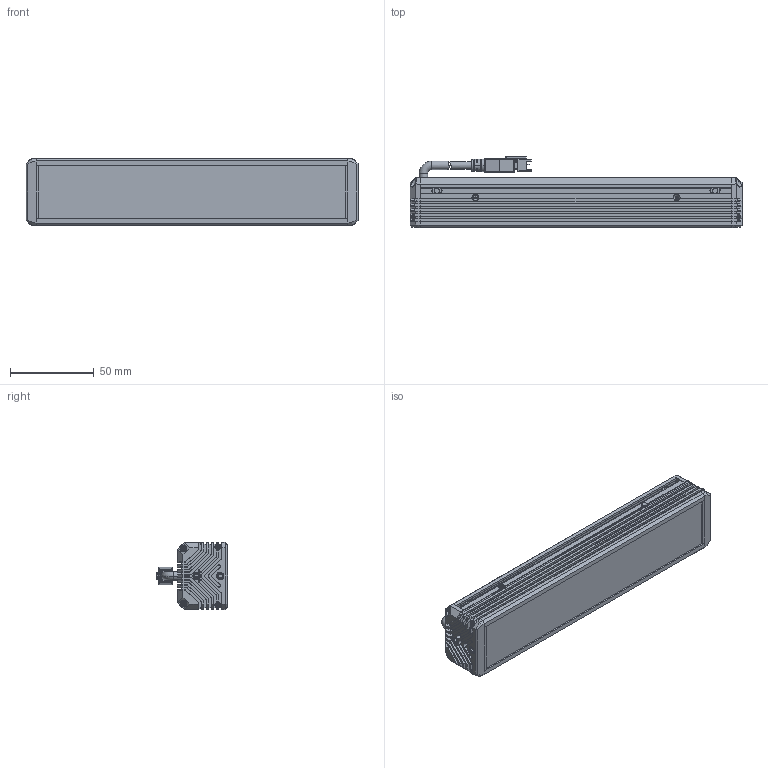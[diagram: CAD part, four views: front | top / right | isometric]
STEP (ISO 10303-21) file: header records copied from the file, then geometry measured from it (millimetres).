
FILE_DESCRIPTION((''),'2;1');
FILE_NAME('MV-LLDS-H-200-40-W-PL_ASM','2024-04-08T12:07:50',('huguozhe'),(''),'CREO PARAMETRIC BY PTC INC, 2020044','CREO PARAMETRIC BY PTC INC, 2020044','');
FILE_SCHEMA(('AUTOMOTIVE_DESIGN { 1 0 10303 214 1 1 1 1 }'));
Length unit declared in the file: millimetre
Products named in the file (15): DE-15-001178; DE-15-001177_ASM; DE-15-000480; DE-15-000479_ASM; DE-12-002350; TIP-M3X4-4_5X5-SO-ET-07061033; DE-12-002350_ASM; DE-12-001594; SC-KM2X6-BNI-GB819; XIANLAN_HEAD; CABLE_HEAD; CABLE_HEAD_ASM_ASM; 190100852; SC-PM2X6B-JMP; MV-LLDS-H-200-40-W-PL_ASM
Assembly tree (30 placements, depth 3):
  MV-LLDS-H-200-40-W-PL_ASM
    DE-15-001177_ASM
      DE-15-001178
    DE-15-000479_ASM
      DE-15-000480
    DE-12-002350_ASM  x2
      DE-12-002350
      TIP-M3X4-4_5X5-SO-ET-07061033
    DE-12-001594
    SC-KM2X6-BNI-GB819
    CABLE_HEAD_ASM_ASM
      XIANLAN_HEAD
      CABLE_HEAD
    190100852  x8
    SC-PM2X6B-JMP  x8
Bounding box: 198 x 42.65 x 40 mm (x, y, z)
Volume: 184634.6 mm3; surface area: 101459 mm2
Topology: 28 solids, 59 shells, 2659 faces, 6923 edges, 4374 vertices
Faces by surface type: plane 1276, cylinder 547, bspline 472, cone 311, torus 44, sphere 8, extrusion 1
Entity records: 47907 total; most frequent: CARTESIAN_POINT 11192, ORIENTED_EDGE 6156, DIRECTION 5900, EDGE_CURVE 3106, VECTOR 2008, LINE 2007, VERTEX_POINT 1992, AXIS2_PLACEMENT_3D 1946
